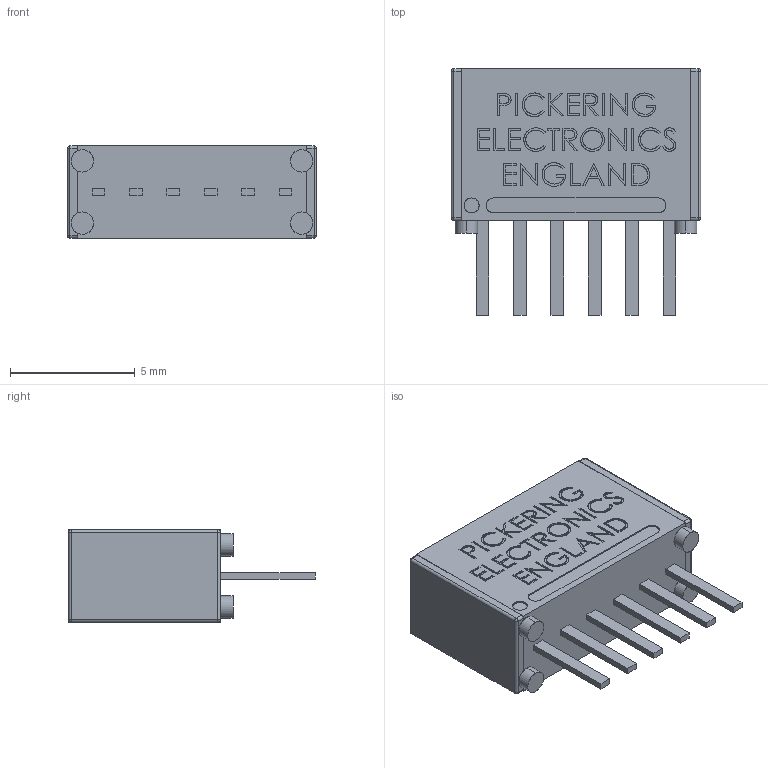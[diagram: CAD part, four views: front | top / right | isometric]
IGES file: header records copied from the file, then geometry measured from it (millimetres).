
Start section: SolidWorks IGES file using analytic representation for surfaces
Global section: file name: T:\Relays in Solidworks\Batch 1\111RF-1-A.IGS; native system: SolidWorks 2009; preprocessor: SolidWorks 2009; author: alex.leming; date: 100629.115837; units: millimetre
Bounding box: 10 x 9.9 x 3.7 mm (x, y, z)
Surface area: 386.4 mm2 (no closed solid volume)
Topology: 0 solids, 0 shells, 829 faces, 6619 edges, 6611 vertices
Faces by surface type: bspline 789, revolution 40
